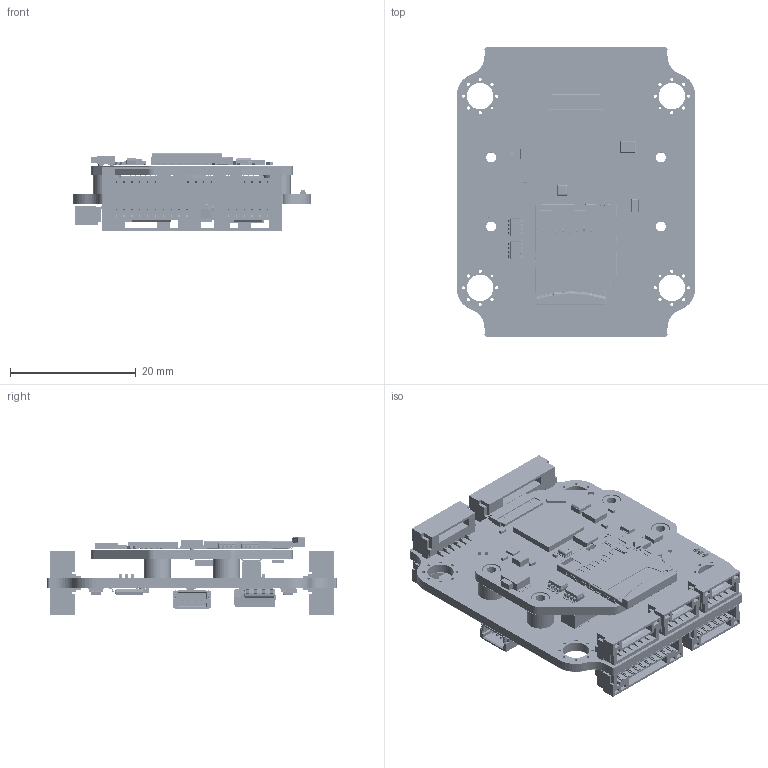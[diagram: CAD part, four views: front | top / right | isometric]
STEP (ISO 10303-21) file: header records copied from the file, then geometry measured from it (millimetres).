
FILE_DESCRIPTION(/* description */ (''),/* implementation_level */ '2;1');
FILE_NAME(/* name */ 'RadianH7_Public v1.step',/* time_stamp */ '2025-07-13T21:51:56+03:00',/* author */ (''),/* organization */ (''),/* preprocessor_version */ 'ST-DEVELOPER v20.1',/* originating_system */ 'Autodesk Translation Framework v14.10.0.0',/* authorisation */ '');
FILE_SCHEMA (('AUTOMOTIVE_DESIGN { 1 0 10303 214 3 1 1 }'));
Products named in the file (149): RadianH7_Public; radianH7 1; DF40C-100DP-0.4V_51_; DF40C-100DP-0.4V; TPS54560BDDAR; BODY-SO; THERMALPAD-SO; LEAD-SO; TPS25200DRVR; BODY-SON; FRAME-DRV0006A; SOLID; SOLID_1; SOLID_2; SOLID_3; SOLID_4; SOLID_5; SOLID_6; TPS73733DRVR; Body; ThermalPin; PinsArrayLR; LM66200DRLR; FRAME-DRL0008A; SOLID_7; SOLID_8; SOLID_9; SOLID_10; SOLID_11; SOLID_12; SOLID_13; SOLID_14; BODY-SOT; L_Bourns_SRP7028A_7.3x6.6mm; Chamfer; FilletPin1; FilletPin2; D_SMA; SM04B-SRSS-TB_LFSN_; JST_GH_SM03B-GHS-TB_1x03-1MP_P1.25mm_Horizontal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
Assembly tree (281 placements, depth 5):
  RadianH7_Public
    radianH7 1
      JST_GH_SM06B-GHS-TB_1x06-1MP_P1.25mm_Horizontal  x4
      LED_0402_1005Metric  x6
      JST_GH_SM10B-GHS-TB_1x10-1MP_P1.25mm_Horizontal  x2
      JST_GH_SM04B-GHS-TB_1x04-1MP_P1.25mm_Horizontal  x3
      DF40C-100DP-0.4V_51_
        DF40C-100DP-0.4V
      Fuse_0805_2012Metric  x6
      TPS54560BDDAR
        BODY-SO
        LEAD-SO  x8
        THERMALPAD-SO
      TPS25200DRVR
        BODY-SON
        FRAME-DRV0006A
          SOLID
          SOLID_1
          SOLID_2
          SOLID_3
          SOLID_4
          SOLID_5
          SOLID_6
      TPS73733DRVR
        Body
        ThermalPin
        PinsArrayLR
      D_SOD-323  x6
      TPS26600PWPR  x2
        BODY-TSSOP
        LEAD-TSSOP
        DAP
      LM66200DRLR
        FRAME-DRL0008A
          SOLID_7
          SOLID_8
          SOLID_9
          SOLID_10
          SOLID_11
          SOLID_12
          SOLID_13
          SOLID_14
        BODY-SOT
      L_Bourns_SRP7028A_7.3x6.6mm
        Chamfer
        FilletPin1
        FilletPin2
      D_SMA
      SM04B-SRSS-TB_LFSN_
      JST_GH_SM03B-GHS-TB_1x03-1MP_P1.25mm_Horizontal
      radian_carrier_soldermask
      radian_carrier_PCB
    radianH743 1
      ICM-42688-P
      D_SOD-923  x2
      Crystal_SMD_3225-4Pin_3.2x2.5mm
      BMP388
      LED_0402_1005Metric_1  x2
      L_0402_1005Metric  x7
      TPS73733DRVR_1
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Bounding box: 38 x 46 x 12.37 mm (x, y, z)
Volume: 5804.3 mm3; surface area: 18726.3 mm2
Topology: 532 solids, 537 shells, 19284 faces, 52982 edges, 35037 vertices
Faces by surface type: plane 15562, cylinder 2838, bspline 754, sphere 108, torus 14, cone 8
Full cylindrical faces by diameter (mm): 0.026 x1, 0.2 x2, 0.235 x1, 0.25 x7, 0.263 x2, 0.3 x1, 0.32 x2, 0.35 x2, 0.37 x1, 0.4 x4, 0.5 x32, 0.7 x8, 0.8 x2, 1.567 x4, 2.2 x4, 2.8 x4, 3 x4, 4.2 x4, 4.35 x4
Entity records: 487291 total; most frequent: CARTESIAN_POINT 97297, ORIENTED_EDGE 81590, DIRECTION 72914, EDGE_CURVE 40918, LINE 34504, VECTOR 34504, VERTEX_POINT 27189, AXIS2_PLACEMENT_3D 19205
